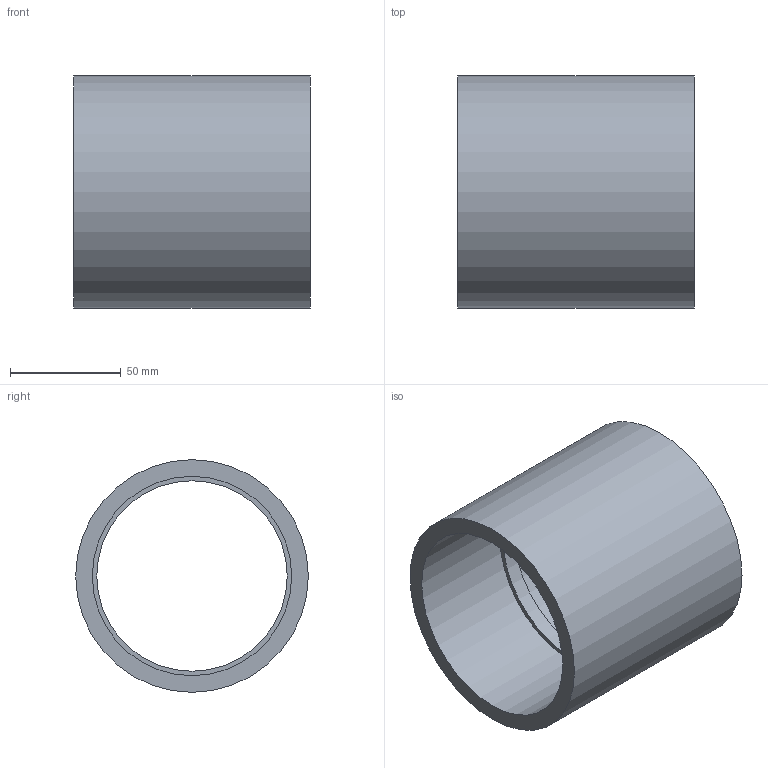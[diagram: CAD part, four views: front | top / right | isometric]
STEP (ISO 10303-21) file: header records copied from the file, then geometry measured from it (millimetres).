
FILE_DESCRIPTION(/* description */ ('PVC manicotti metrici incollaggio'),/* implementation_level */ '2;1');
FILE_NAME(/* name */ 'C:\Users\POLYPIPE\Desktop\DATASET INVENTOR\LIBRERIA EFFAST\RACCORDI 3DxWEB\RDR\3D_RDRMAD\3D_RDRMAD0900.stp',/* time_stamp */ '2018-01-19T14:39:15+01:00',/* author */ ('POLYPIPE'),/* organization */ ('Polypipe Italia s.r.l.'),/* preprocessor_version */ 'ST-DEVELOPER v16.1',/* originating_system */ 'Autodesk Inventor 2016',/* authorisation */ '');
FILE_SCHEMA (('CONFIG_CONTROL_DESIGN'));
Length unit declared in the file: millimetre
Products named in the file (1): 3D_RDRMAD
Bounding box: 107 x 105 x 105 mm (x, y, z)
Volume: 249680.4 mm3; surface area: 71161.8 mm2
Topology: 1 solids, 1 shells, 8 faces, 12 edges, 8 vertices
Faces by surface type: cylinder 4, plane 4
Full cylindrical faces by diameter (mm): 86 x1, 90 x2, 105 x1
Entity records: 192 total; most frequent: DIRECTION 34, CARTESIAN_POINT 25, AXIS2_PLACEMENT_3D 17, EDGE_LOOP 16, ORIENTED_EDGE 16, FACE_BOUND 8, FACE_OUTER_BOUND 8, CIRCLE 8
